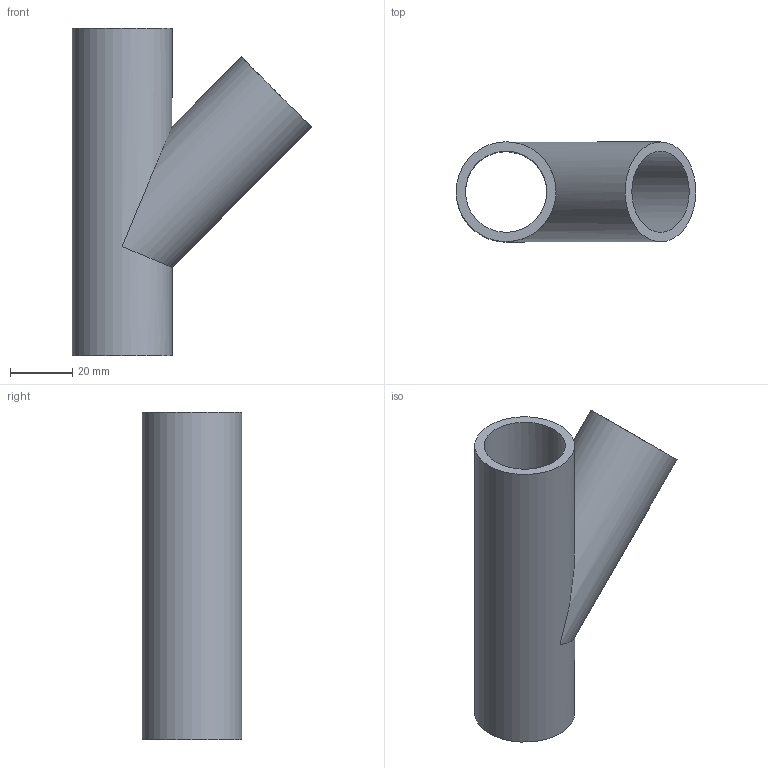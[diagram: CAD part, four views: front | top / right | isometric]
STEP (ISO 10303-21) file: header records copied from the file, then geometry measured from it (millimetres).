
FILE_DESCRIPTION(/* description */ (''),/* implementation_level */ '2;1');
FILE_NAME(/* name */ 'C:\Planerdaten\Export PLA\PRO_101557\stp\379108.stp',/* time_stamp */ '2021-09-30T15:10:34+02:00',/* author */ ('JANAN'),/* organization */ (''),/* preprocessor_version */ 'ST-DEVELOPER v16.13',/* originating_system */ 'Autodesk Inventor 2018',/* authorisation */ '');
FILE_SCHEMA (('AUTOMOTIVE_DESIGN { 1 0 10303 214 3 1 1 }'));
Length unit declared in the file: millimetre
Products named in the file (1): tmp7C6D.tmp
Bounding box: 76.81 x 32 x 105 mm (x, y, z)
Volume: 40669.2 mm3; surface area: 27898.8 mm2
Topology: 1 solids, 1 shells, 7 faces, 19 edges, 14 vertices
Faces by surface type: cylinder 4, plane 3
Full cylindrical faces by diameter (mm): 26 x2, 32 x2
Entity records: 228 total; most frequent: DIRECTION 36, CARTESIAN_POINT 28, ORIENTED_EDGE 20, AXIS2_PLACEMENT_3D 18, EDGE_LOOP 16, VERTEX_POINT 10, EDGE_CURVE 10, FACE_BOUND 9
